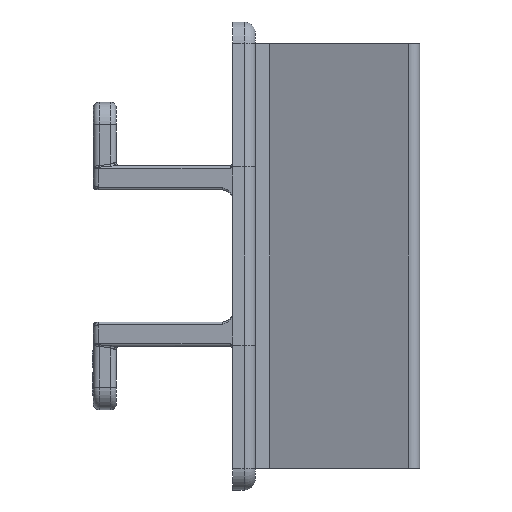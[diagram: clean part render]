
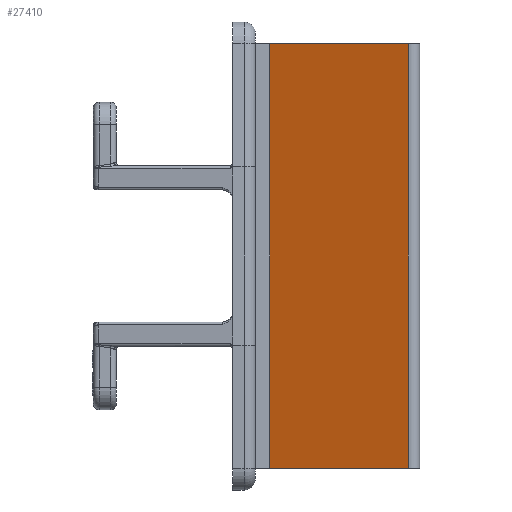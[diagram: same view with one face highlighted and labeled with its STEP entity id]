
A CAD part, front view. The second image highlights one B-rep face of the part: STEP entity #27410.
In plain terms, the highlighted planar face has unit normal (-0.359, -0.933, 0).
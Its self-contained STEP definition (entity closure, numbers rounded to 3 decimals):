
#9590=DIRECTION('',(0.,0.,-1.));
#9591=VECTOR('',#9590,75.);
#9592=CARTESIAN_POINT('',(6.48,-13.,37.5));
#9593=LINE('',#9592,#9591);
#9643=DIRECTION('',(-0.933,0.359,0.));
#9644=VECTOR('',#9643,26.206);
#9645=CARTESIAN_POINT('',(30.942,-22.4,37.5));
#9646=LINE('',#9645,#9644);
#9655=DIRECTION('',(-0.933,0.359,0.));
#9656=VECTOR('',#9655,26.206);
#9657=CARTESIAN_POINT('',(30.942,-22.4,-37.5));
#9658=LINE('',#9657,#9656);
#9708=DIRECTION('',(0.,0.,-1.));
#9709=VECTOR('',#9708,75.);
#9710=CARTESIAN_POINT('',(30.942,-22.4,37.5));
#9711=LINE('',#9710,#9709);
#12822=CARTESIAN_POINT('',(30.942,-22.4,37.5));
#12823=VERTEX_POINT('',#12822);
#12824=CARTESIAN_POINT('',(6.48,-13.,37.5));
#12825=VERTEX_POINT('',#12824);
#12846=CARTESIAN_POINT('',(30.942,-22.4,-37.5));
#12847=VERTEX_POINT('',#12846);
#12848=CARTESIAN_POINT('',(6.48,-13.,-37.5));
#12849=VERTEX_POINT('',#12848);
#27398=CARTESIAN_POINT('',(30.942,-22.4,37.5));
#27399=DIRECTION('',(-0.359,-0.933,0.));
#27400=DIRECTION('',(-0.933,0.359,0.));
#27401=AXIS2_PLACEMENT_3D('',#27398,#27399,#27400);
#27402=PLANE('',#27401);
#27403=ORIENTED_EDGE('',*,*,#27345,.F.);
#27405=ORIENTED_EDGE('',*,*,#27404,.T.);
#27406=ORIENTED_EDGE('',*,*,#27372,.T.);
#27407=ORIENTED_EDGE('',*,*,#27310,.F.);
#27408=EDGE_LOOP('',(#27403,#27405,#27406,#27407));
#27409=FACE_OUTER_BOUND('',#27408,.F.);
#27410=ADVANCED_FACE('',(#27409),#27402,.T.);
#27310=EDGE_CURVE('',#12825,#12849,#9593,.T.);
#27345=EDGE_CURVE('',#12823,#12825,#9646,.T.);
#27372=EDGE_CURVE('',#12847,#12849,#9658,.T.);
#27404=EDGE_CURVE('',#12823,#12847,#9711,.T.);
